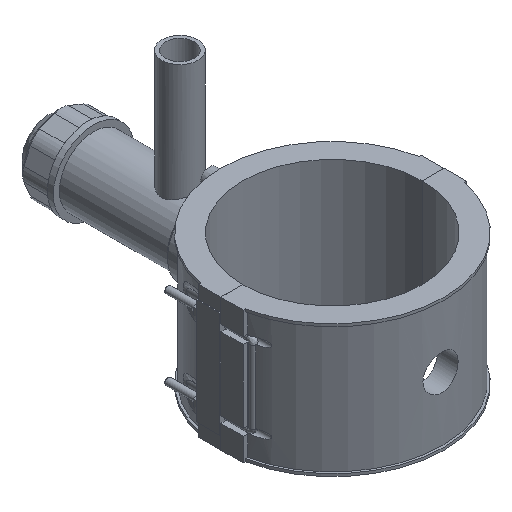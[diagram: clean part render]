
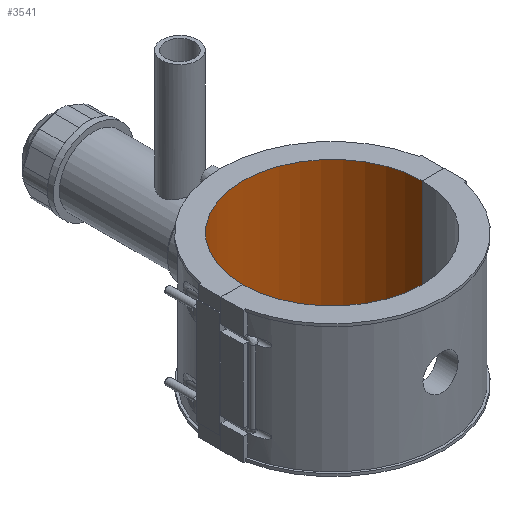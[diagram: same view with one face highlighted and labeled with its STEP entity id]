
A CAD part, isometric view. The second image highlights one B-rep face of the part: STEP entity #3541.
In plain terms, the highlighted cylindrical face has radius 80 mm (diameter 160 mm), a partial arc.
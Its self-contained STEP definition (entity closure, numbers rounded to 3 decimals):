
#361=FACE_OUTER_BOUND('',#583,.T.);
#583=EDGE_LOOP('',(#3192,#3193,#3194,#3195));
#862=LINE('',#6752,#1172);
#896=LINE('',#7072,#1206);
#1172=VECTOR('',#4389,10.);
#1206=VECTOR('',#4521,10.);
#1387=CIRCLE('',#3787,80.);
#1388=CIRCLE('',#3789,80.);
#1645=VERTEX_POINT('',#6749);
#1646=VERTEX_POINT('',#6751);
#1684=VERTEX_POINT('',#7069);
#1685=VERTEX_POINT('',#7071);
#2069=EDGE_CURVE('',#1646,#1645,#862,.T.);
#2134=EDGE_CURVE('',#1685,#1684,#896,.T.);
#2137=EDGE_CURVE('',#1646,#1684,#1387,.T.);
#2138=EDGE_CURVE('',#1685,#1645,#1388,.T.);
#3192=ORIENTED_EDGE('',*,*,#2134,.T.);
#3193=ORIENTED_EDGE('',*,*,#2137,.F.);
#3194=ORIENTED_EDGE('',*,*,#2069,.T.);
#3195=ORIENTED_EDGE('',*,*,#2138,.F.);
#3355=CYLINDRICAL_SURFACE('',#3863,80.);
#3541=ADVANCED_FACE('',(#361),#3355,.F.);
#3787=AXIS2_PLACEMENT_3D('',#7077,#4526,#4527);
#3789=AXIS2_PLACEMENT_3D('',#7079,#4530,#4531);
#3863=AXIS2_PLACEMENT_3D('',#7285,#4754,#4755);
#4389=DIRECTION('',(0.,0.,-1.));
#4521=DIRECTION('',(0.,0.,1.));
#4526=DIRECTION('center_axis',(0.,0.,-1.));
#4527=DIRECTION('ref_axis',(-1.,0.,0.));
#4530=DIRECTION('center_axis',(0.,0.,1.));
#4531=DIRECTION('ref_axis',(-1.,0.,0.));
#4754=DIRECTION('center_axis',(0.,0.,1.));
#4755=DIRECTION('ref_axis',(1.,0.,0.));
#6749=CARTESIAN_POINT('',(-80.,0.05,-59.));
#6751=CARTESIAN_POINT('',(-80.,0.05,59.));
#6752=CARTESIAN_POINT('',(-80.,0.05,0.));
#7069=CARTESIAN_POINT('',(80.,0.05,59.));
#7071=CARTESIAN_POINT('',(80.,0.05,-59.));
#7072=CARTESIAN_POINT('',(80.,0.05,0.));
#7077=CARTESIAN_POINT('Origin',(0.,0.,59.));
#7079=CARTESIAN_POINT('Origin',(0.,0.,-59.));
#7285=CARTESIAN_POINT('Origin',(0.,0.,-59.));
